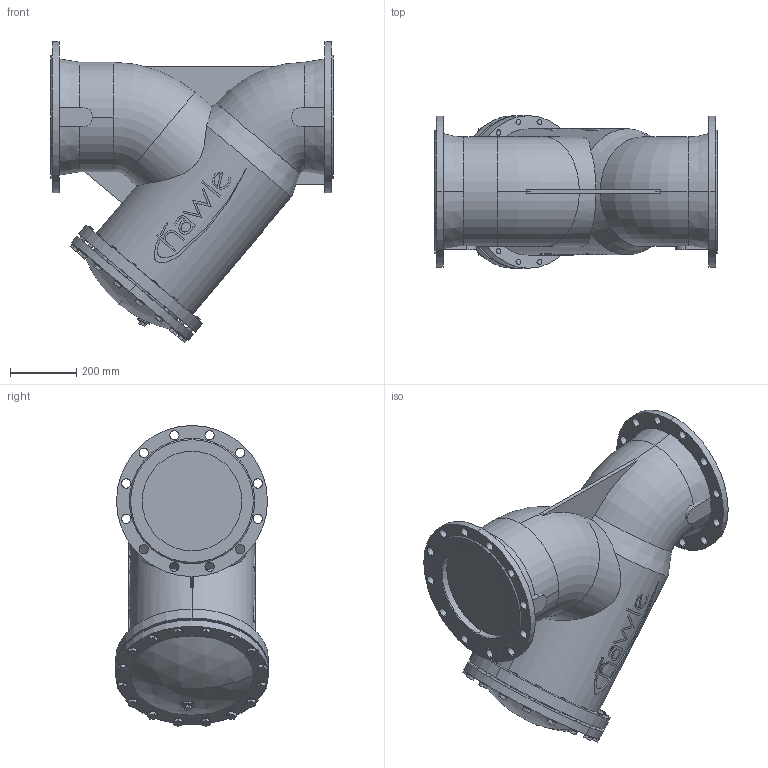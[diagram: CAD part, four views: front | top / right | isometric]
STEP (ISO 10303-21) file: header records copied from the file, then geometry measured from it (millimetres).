
FILE_DESCRIPTION(('STEP AP214'),'1');
FILE_NAME('S:/EK/USER/CAT6/3DHomepage_27-04-2012/9910/9910_PN16_DN300.stp','2013-03-12T09:32:30',(' '),(' '),'Spatial InterOp 3D',' ',' ');
FILE_SCHEMA(('automotive_design'));
Length unit declared in the file: millimetre
Products named in the file (84): 3D-Objekt
Bounding box: 850 x 460 x 906.63 mm (x, y, z)
Volume: 130034971.2 mm3; surface area: 4461118.8 mm2
Topology: 84 solids, 84 shells, 597 faces, 1280 edges, 853 vertices
Faces by surface type: plane 357, cylinder 224, cone 10, torus 4, sphere 2
Entity records: 23341 total; most frequent: DIRECTION 3119, CARTESIAN_POINT 3068, ORIENTED_EDGE 2560, EDGE_CURVE 1280, AXIS2_PLACEMENT_3D 1164, VERTEX_POINT 853, LINE 791, VECTOR 791
